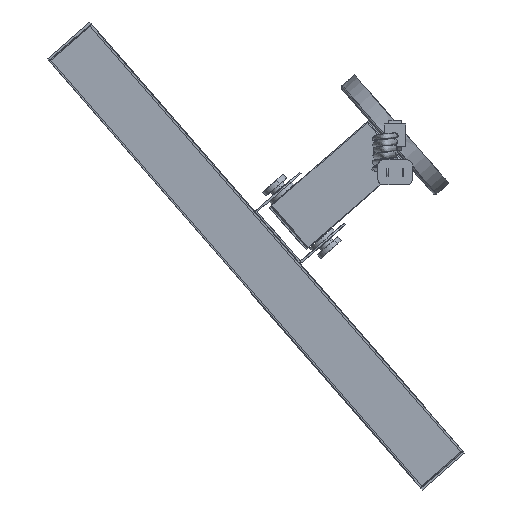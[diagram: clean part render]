
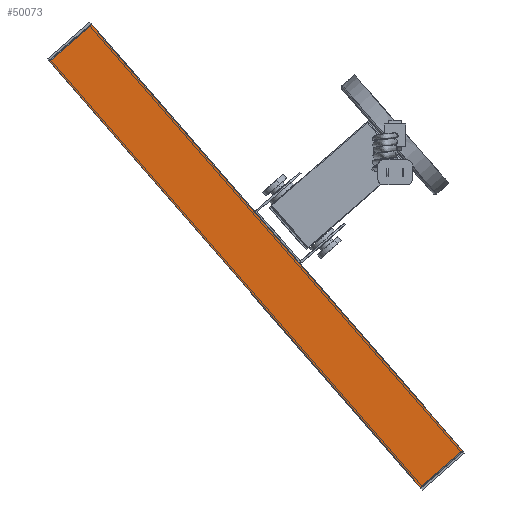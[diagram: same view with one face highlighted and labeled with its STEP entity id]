
A CAD part, left-side view. The second image highlights one B-rep face of the part: STEP entity #50073.
In plain terms, the highlighted planar face has unit normal (-1, 0, 0) as drawn and (0, 0, -1) by its records, which use the part's own axes.
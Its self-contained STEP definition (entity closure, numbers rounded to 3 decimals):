
#47895=CARTESIAN_POINT('',(-225.5,22.3,-22.5));
#47903=CARTESIAN_POINT('',(225.5,22.3,-22.5));
#48593=CARTESIAN_POINT('',(-225.5,-22.3,-22.5));
#48614=DIRECTION('',(0.,-1.,0.));
#48615=VECTOR('',#48614,44.6);
#48616=CARTESIAN_POINT('',(-225.5,22.3,-22.5));
#48617=LINE('',#48616,#48615);
#48618=DIRECTION('',(-1.,0.,0.));
#48619=VECTOR('',#48618,451.);
#48620=CARTESIAN_POINT('',(225.5,-22.3,-22.5));
#48621=LINE('',#48620,#48619);
#48622=DIRECTION('',(0.,1.,0.));
#48623=VECTOR('',#48622,44.6);
#48624=CARTESIAN_POINT('',(225.5,-22.3,-22.5));
#48625=LINE('',#48624,#48623);
#48626=DIRECTION('',(-1.,0.,0.));
#48627=VECTOR('',#48626,451.);
#48628=CARTESIAN_POINT('',(225.5,22.3,-22.5));
#48629=LINE('',#48628,#48627);
#48863=VERTEX_POINT('',#47895);
#48867=VERTEX_POINT('',#48593);
#48877=VERTEX_POINT('',#47903);
#48878=CARTESIAN_POINT('',(225.5,-22.3,-22.5));
#48879=VERTEX_POINT('',#48878);
#50062=CARTESIAN_POINT('',(-226.5,-22.5,-22.5));
#50063=DIRECTION('',(0.,0.,-1.));
#50064=DIRECTION('',(0.,1.,0.));
#50065=AXIS2_PLACEMENT_3D('',#50062,#50063,#50064);
#50066=PLANE('',#50065);
#50067=ORIENTED_EDGE('',*,*,#50057,.T.);
#50068=ORIENTED_EDGE('',*,*,#50042,.F.);
#50069=ORIENTED_EDGE('',*,*,#49053,.T.);
#50070=ORIENTED_EDGE('',*,*,#49074,.T.);
#50071=EDGE_LOOP('',(#50067,#50068,#50069,#50070));
#50072=FACE_OUTER_BOUND('',#50071,.F.);
#49053=EDGE_CURVE('',#48879,#48877,#48625,.T.);
#49074=EDGE_CURVE('',#48877,#48863,#48629,.T.);
#50042=EDGE_CURVE('',#48879,#48867,#48621,.T.);
#50057=EDGE_CURVE('',#48863,#48867,#48617,.T.);
#50073=ADVANCED_FACE('',(#50072),#50066,.T.);
